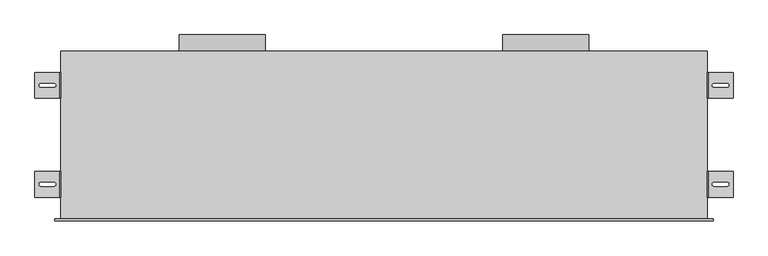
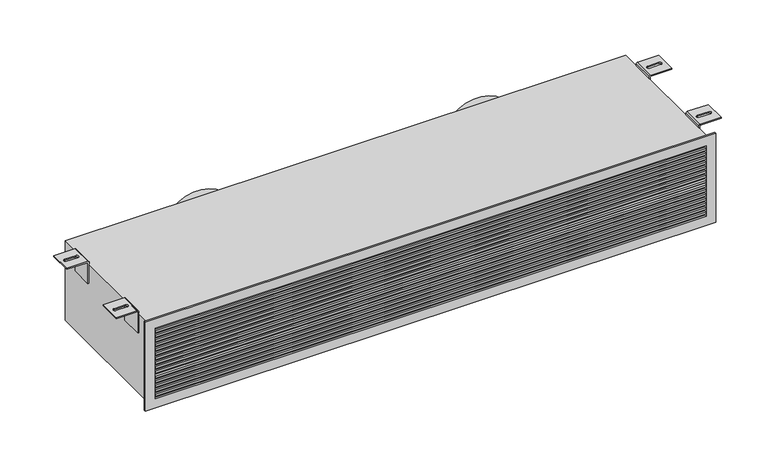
"""IFC4 building model written with IfcOpenShell, lengths in millimetres: air terminal geometry, EOL - Mural - 2 piquages : EOL-M2x200-1500x225-2."""

import ifcopenshell
import ifcopenshell.guid

model = None  # the IFC model being written
_history = None  # IfcOwnerHistory: only IFC2X3 demands one
_inside = {}  # id of a spatial element -> (the spatial element, [elements in it])
_under = {}  # id of a project, library or spatial element -> (it, [spatial elements below it])
_declared = {}  # id of a project -> (the project, [libraries it declares])
_typed = {}  # id of a type object -> (the type object, [elements of that type])
_made_of = {}  # id of a material, layer set ... -> (it, [elements and type objects made of it])


def new_model(schema):
    """Start an empty IFC model of exactly this schema.

    Asked for "IFC4X3", IfcOpenShell would pick the latest addendum, in which some entities
    have other attributes; the version numbers below select the first issue.
    IFC2X3 requires an IfcOwnerHistory on every rooted entity: one is made here for all.
    """
    global model, _history
    if schema == "IFC4X3":
        model = ifcopenshell.file(schema_version=(4, 3, 0, 0))
    else:
        model = ifcopenshell.file(schema=schema)
    _inside.clear()
    _under.clear()
    _declared.clear()
    _typed.clear()
    _made_of.clear()
    _history = None
    if model.schema == "IFC2X3":
        org = make("IfcOrganization", Name="unknown")
        user = make(
            "IfcPersonAndOrganization",
            ThePerson=make("IfcPerson", FamilyName="unknown"),
            TheOrganization=org,
        )
        app = make(
            "IfcApplication",
            ApplicationDeveloper=org,
            Version="unknown",
            ApplicationFullName="unknown",
            ApplicationIdentifier="unknown",
        )
        _history = make(
            "IfcOwnerHistory",
            OwningUser=user,
            OwningApplication=app,
            ChangeAction="ADDED",
            CreationDate=0,
        )
    return model


def make(cls, **values):
    """One entity of the class cls with the attributes given. An attribute that is None is left unset."""
    return model.create_entity(
        cls, **{name: value for name, value in values.items() if value is not None}
    )


def rooted(cls, **values):
    """An entity with a GlobalId (a new one), such as an element, a storey or a relation."""
    return make(cls, GlobalId=ifcopenshell.guid.new(), OwnerHistory=_history, **values)


def si_unit(unit_type, name, prefix=None):
    """IfcSIUnit, for example si_unit("LENGTHUNIT", "METRE", prefix="MILLI")."""
    return make("IfcSIUnit", UnitType=unit_type, Prefix=prefix, Name=name)


def assignment(units):
    """IfcUnitAssignment: the units of a project."""
    return None if units is None else make("IfcUnitAssignment", Units=units)


def point(xyz):
    """IfcCartesianPoint."""
    return None if xyz is None else make("IfcCartesianPoint", Coordinates=xyz)


def direction(xyz):
    """IfcDirection."""
    return None if xyz is None else make("IfcDirection", DirectionRatios=xyz)


def frame(location, z_axis=None, x_axis=None):
    """IfcAxis2Placement3D, a coordinate frame: its origin and axes. An axis left out is left unset."""
    return make(
        "IfcAxis2Placement3D",
        Location=point(location),
        Axis=direction(z_axis),
        RefDirection=direction(x_axis),
    )


def frame_2d(location, x_axis=None):
    """IfcAxis2Placement2D, a coordinate frame in the plane: its origin and x axis."""
    return make(
        "IfcAxis2Placement2D", Location=point(location), RefDirection=direction(x_axis)
    )


def origin():
    """The frame at (0, 0, 0) with its axes left unset."""
    return frame((0.0, 0.0, 0.0))


def place(relative_to, where):
    """IfcLocalPlacement: puts the frame where relative to a parent placement (None: the world)."""
    return make(
        "IfcLocalPlacement", PlacementRelTo=relative_to, RelativePlacement=where
    )


def context(
    kind, dimensions, precision=None, world=None, true_north=None, identifier=None
):
    """IfcGeometricRepresentationContext, for example the 3D "Model" context."""
    return make(
        "IfcGeometricRepresentationContext",
        ContextIdentifier=identifier,
        ContextType=kind,
        CoordinateSpaceDimension=dimensions,
        Precision=precision,
        WorldCoordinateSystem=world,
        TrueNorth=true_north,
    )


def project(units=None, contexts=None):
    """IfcProject with its units and contexts."""
    return rooted(
        "IfcProject",
        Name="project",
        RepresentationContexts=contexts,
        UnitsInContext=assignment(units),
    )


def spatial(cls, under=None, at=None, **own):
    """A site, building, storey or space (cls), placed at a placement, below another one or the project."""
    s = rooted(cls, ObjectPlacement=at, **own)
    if under is not None:
        _under.setdefault(under.id(), (under, []))[1].append(s)
    return s


def polyline(points):
    """IfcPolyline through the points."""
    return make("IfcPolyline", Points=[point(p) for p in points])


def circle_curve(where, radius):
    """IfcCircle in the frame where."""
    return make("IfcCircle", Position=where, Radius=radius)


def ellipse_curve(where, semi_axis1, semi_axis2):
    """IfcEllipse in the frame where."""
    return make(
        "IfcEllipse", Position=where, SemiAxis1=semi_axis1, SemiAxis2=semi_axis2
    )


def trimmed(basis, trim1, trim2, sense, master):
    """IfcTrimmedCurve: the piece of a basis curve between two trims."""
    return make(
        "IfcTrimmedCurve",
        BasisCurve=basis,
        Trim1=trim1,
        Trim2=trim2,
        SenseAgreement=sense,
        MasterRepresentation=master,
    )


def segment(curve, same_sense, transition):
    """IfcCompositeCurveSegment."""
    return make(
        "IfcCompositeCurveSegment",
        Transition=transition,
        SameSense=same_sense,
        ParentCurve=curve,
    )


def composite_curve(segments, self_intersect=None):
    """IfcCompositeCurve: segments joined end to end."""
    return make("IfcCompositeCurve", Segments=segments, SelfIntersect=self_intersect)


def outline(outer, holes=None, kind="AREA"):
    """IfcArbitraryClosedProfileDef: a profile drawn as a closed curve; with holes, ...WithVoids."""
    if holes is None:
        return make("IfcArbitraryClosedProfileDef", ProfileType=kind, OuterCurve=outer)
    return make(
        "IfcArbitraryProfileDefWithVoids",
        ProfileType=kind,
        OuterCurve=outer,
        InnerCurves=holes,
    )


def extrude(swept, where, along, depth):
    """IfcExtrudedAreaSolid: the profile swept, set in the frame where, extruded along a direction by depth."""
    return make(
        "IfcExtrudedAreaSolid",
        SweptArea=swept,
        Position=where,
        ExtrudedDirection=direction(along),
        Depth=depth,
    )


def shape(context_of_items, identifier, shape_type, items):
    """IfcShapeRepresentation: the items that make up one representation, for example the "Body"."""
    return make(
        "IfcShapeRepresentation",
        ContextOfItems=context_of_items,
        RepresentationIdentifier=identifier,
        RepresentationType=shape_type,
        Items=items,
    )


def source(mapping_origin, context_of_items, identifier, shape_type, items):
    """IfcRepresentationMap: a shape defined once, which mapped items show again and again."""
    return make(
        "IfcRepresentationMap",
        MappingOrigin=mapping_origin,
        MappedRepresentation=shape(context_of_items, identifier, shape_type, items),
    )


def transform(
    local_origin,
    x_axis=None,
    y_axis=None,
    z_axis=None,
    scale=None,
    scale2=None,
    scale3=None,
    uniform=True,
):
    """IfcCartesianTransformationOperator3D, or its non-uniform kind. x_axis, y_axis, z_axis: its Axis1, 2, 3."""
    if uniform:
        return make(
            "IfcCartesianTransformationOperator3D",
            Axis1=direction(x_axis),
            Axis2=direction(y_axis),
            LocalOrigin=point(local_origin),
            Scale=scale,
            Axis3=direction(z_axis),
        )
    return make(
        "IfcCartesianTransformationOperator3DnonUniform",
        Axis1=direction(x_axis),
        Axis2=direction(y_axis),
        LocalOrigin=point(local_origin),
        Scale=scale,
        Axis3=direction(z_axis),
        Scale2=scale2,
        Scale3=scale3,
    )


def mapped(mapping_source, mapping_target):
    """IfcMappedItem: shows the shape of a source again, moved by a transform."""
    return make(
        "IfcMappedItem", MappingSource=mapping_source, MappingTarget=mapping_target
    )


def made_of(thing, what):
    """Note that an element or type object is made of a material, layer set ...; save() writes the relation."""
    if what is not None:
        _made_of.setdefault(what.id(), (what, []))[1].append(thing)
    return thing


def element(
    cls,
    number,
    at=None,
    inside=None,
    cuts=None,
    type_object=None,
    material=None,
    context=None,
    identifier="Body",
    shape_type=None,
    held_by="IfcProductDefinitionShape",
    body=None,
    shapes=None,
    **own,
):
    """One element of the class cls, such as IfcWall. Its Tag is "e" and its number.

    at: its placement. inside: the storey or other place that contains it. cuts: it is an
    opening in that element (IfcRelVoidsElement). A single representation is given by context,
    identifier, shape_type and body (its items); several are given by shapes. held_by: the class
    of the entity that holds the representations. save() writes the other relations.
    """
    e = rooted(cls, Tag="e%d" % number, ObjectPlacement=at, **own)
    if body is not None:
        shapes = [shape(context, identifier, shape_type, body)]
    if shapes is not None:
        e.Representation = make(held_by, Representations=shapes)
    if inside is not None:
        _inside.setdefault(inside.id(), (inside, []))[1].append(e)
    if cuts is not None:
        rooted(
            "IfcRelVoidsElement", RelatingBuildingElement=cuts, RelatedOpeningElement=e
        )
    if type_object is not None:
        _typed.setdefault(type_object.id(), (type_object, []))[1].append(e)
    return made_of(e, material)


def aggregate(whole, parts):
    """IfcRelAggregates: a whole, such as a stair, and the parts it consists of."""
    return rooted("IfcRelAggregates", RelatingObject=whole, RelatedObjects=parts)


def save(model, path):
    """Write the relations noted so far, then the file.

    IfcRelAggregates (storeys below a building ...), IfcRelContainedInSpatialStructure (elements
    in a storey), IfcRelDefinesByType, IfcRelAssociatesMaterial and IfcRelDeclares: one each for
    every whole, place, type object, material and project.
    """
    for whole, parts in _under.values():
        aggregate(whole, parts)
    for where, things in _inside.values():
        rooted(
            "IfcRelContainedInSpatialStructure",
            RelatedElements=things,
            RelatingStructure=where,
        )
    for kind, things in _typed.values():
        rooted("IfcRelDefinesByType", RelatedObjects=things, RelatingType=kind)
    for what, things in _made_of.values():
        rooted("IfcRelAssociatesMaterial", RelatedObjects=things, RelatingMaterial=what)
    for by, libraries in _declared.values():
        rooted("IfcRelDeclares", RelatingContext=by, RelatedDefinitions=libraries)
    model.write(path)


def plane_surface(at):
    """IfcPlane: the flat surface through the origin of the frame at, square to its z axis."""
    return make("IfcPlane", Position=at)


def cylinder_surface(at, radius):
    """IfcCylindricalSurface: all points at the distance radius from the z axis of the frame at."""
    return make("IfcCylindricalSurface", Position=at, Radius=radius)


def revolved_surface(curve, axis_point, axis_direction):
    """IfcSurfaceOfRevolution: the curve turned about the line through axis_point along axis_direction."""
    return make(
        "IfcSurfaceOfRevolution",
        SweptCurve=make("IfcArbitraryOpenProfileDef", ProfileType="CURVE", Curve=curve),
        AxisPosition=make("IfcAxis1Placement", Location=point(axis_point), Axis=direction(axis_direction)),
    )


def extruded_surface(curve, direction_of_extrusion, depth):
    """IfcSurfaceOfLinearExtrusion: the curve pushed along a direction by depth."""
    return make(
        "IfcSurfaceOfLinearExtrusion",
        SweptCurve=make("IfcArbitraryOpenProfileDef", ProfileType="CURVE", Curve=curve),
        ExtrudedDirection=direction(direction_of_extrusion),
        Depth=depth,
    )


def advanced_brep(points, edges, surfaces, faces):
    """IfcAdvancedBrep: a solid bounded by faces that lie on surfaces and meet in shared edges.

    An edge is (start, end): straight between two places in points (the first is 0);
    or (start, end, curve); or (start, end, curve, False) where it runs against its curve.
    A face is (place in surfaces, loops), or (place, loops, False) where it looks against
    its surface's normal. A loop lists edges by number (the first is 1), with a minus sign
    where the edge is run from its end to its start. The first loop is the outer one.
    """
    corners = [point(p) for p in points]
    vertices = [make("IfcVertexPoint", VertexGeometry=c) for c in corners]
    made = []
    for start, end, *more in edges:
        made.append(
            make(
                "IfcEdgeCurve",
                EdgeStart=vertices[start],
                EdgeEnd=vertices[end],
                EdgeGeometry=more[0] if more else make("IfcPolyline", Points=[corners[start], corners[end]]),
                SameSense=more[1] if len(more) > 1 else True,
            )
        )
    hull = []
    for where, loops, *sense in faces:
        bounds = []
        for j, loop in enumerate(loops):
            ring = [make("IfcOrientedEdge", EdgeElement=made[abs(k) - 1], Orientation=k > 0) for k in loop]
            bounds.append(
                make(
                    "IfcFaceOuterBound" if j == 0 else "IfcFaceBound",
                    Bound=make("IfcEdgeLoop", EdgeList=ring),
                    Orientation=True,
                )
            )
        hull.append(make("IfcAdvancedFace", Bounds=bounds, FaceSurface=surfaces[where], SameSense=sense[0] if sense else True))
    return make("IfcAdvancedBrep", Outer=make("IfcClosedShell", CfsFaces=hull))


def air_terminal_fb6a926f(model_context):
    return source(origin(), model_context, "Body", "SolidModel", [
        advanced_brep(
        [(754.0013366, 110.0, 121.5), (810.0, 110.0, 121.5), (810.0, 110.0, 118.5), (754.0, 110.0, 118.5), (753.0, 110.0, 117.5), (753.0, 110.0, 58.5), (750.0, 110.0, 58.5), (750.0, 110.0, 117.4986634), (754.0013366, 50.0, 121.5), (750.0, 50.0, 117.4986634), (750.0, 50.0, 58.5), (753.0, 50.0, 58.5), (753.0, 50.0, 117.5), (754.0, 50.0, 118.5), (810.0, 50.0, 118.5), (810.0, 50.0, 121.5), (796.0287952, 75.4804328, 121.5), (766.0287952, 75.4804328, 121.5), (766.0287952, 84.4804328, 121.5), (796.0287952, 84.4804328, 121.5), (766.0287952, 75.4804328, 118.5), (796.0287952, 75.4804328, 118.5), (796.0287952, 84.4804328, 118.5), (766.0287952, 84.4804328, 118.5)],
        [
            (0, 1),
            (1, 2),
            (2, 3),
            (3, 4, circle_curve(frame((754.0, 110.0, 117.5), z_axis=(0.0, -1.0, 0.0), x_axis=(-1.0000000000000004, 0.0, 0.0)), 1.0)),
            (4, 5),
            (5, 6),
            (6, 7),
            (7, 0, circle_curve(frame((754.0013366, 110.0, 117.4986634), z_axis=(0.0, 1.0, 0.0), x_axis=(-1.0000000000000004, 0.0, 0.0)), 4.0013366)),
            (8, 9, circle_curve(frame((754.0013366, 50.0, 117.4986634), z_axis=(0.0, -1.0, 0.0), x_axis=(-1.0000000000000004, 0.0, 0.0)), 4.0013366)),
            (9, 10),
            (10, 11),
            (11, 12),
            (12, 13, circle_curve(frame((754.0, 50.0, 117.5), z_axis=(0.0, 1.0, 0.0), x_axis=(-1.0000000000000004, 0.0, 0.0)), 1.0)),
            (13, 14),
            (14, 15),
            (15, 8),
            (0, 8),
            (15, 1),
            (16, 17),
            (17, 18, circle_curve(frame((766.0287952, 79.9804328, 121.5), z_axis=(0.0, 0.0, -1.0), x_axis=(0.0, -1.0, 0.0)), 4.5)),
            (18, 19),
            (19, 16, circle_curve(frame((796.0287952, 79.9804328, 121.5), z_axis=(0.0, 0.0, -1.0), x_axis=(0.0, -1.0, 0.0)), 4.5)),
            (14, 2),
            (13, 3),
            (20, 21),
            (21, 22, ellipse_curve(frame((796.0287952, 79.9804328, 118.5), z_axis=(0.0, 0.0, 1.0), x_axis=(0.0, -1.0, 0.0)), 4.5, 4.5)),
            (22, 23),
            (23, 20, ellipse_curve(frame((766.0287952, 79.9804328, 118.5), z_axis=(0.0, 0.0, 1.0), x_axis=(0.0, -1.0, 0.0)), 4.5, 4.5)),
            (12, 4),
            (11, 5),
            (10, 6),
            (9, 7),
            (16, 21),
            (20, 17),
            (19, 22),
            (18, 23),
        ],
        [
            plane_surface(frame((810.0, 110.0, 121.5), z_axis=(0.0, 1.0, 0.0), x_axis=(1.0, 0.0, 0.0))),
            plane_surface(frame((810.0, 50.0, 121.5), z_axis=(0.0, -1.0, 0.0), x_axis=(-1.0, 0.0, 0.0))),
            plane_surface(frame((754.0013366, 110.0, 121.5), z_axis=(0.0, 0.0, 1.0), x_axis=(0.0, -1.0, 0.0))),
            plane_surface(frame((810.0, 110.0, 121.5), z_axis=(1.0, 0.0, 0.0), x_axis=(0.0, -1.0, 0.0))),
            plane_surface(frame((810.0, 110.0, 118.5), z_axis=(0.0, 0.0, -1.0), x_axis=(0.0, -1.0, 0.0))),
            revolved_surface(polyline([(753.0, 50.0, 117.5), (753.0, 110.00000000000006, 117.5)]), (754.0, 50.0, 117.5), (0.0, -1.0000000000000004, 0.0)),
            plane_surface(frame((753.0, 110.0, 117.5), z_axis=(1.0, 0.0, 0.0), x_axis=(0.0, -1.0, 0.0))),
            plane_surface(frame((753.0, 110.0, 58.5), z_axis=(0.0, 0.0, -1.0), x_axis=(0.0, -1.0, 0.0))),
            plane_surface(frame((750.0, 110.0, 58.5), z_axis=(-1.0, 0.0, 0.0), x_axis=(0.0, -1.0, 0.0))),
            cylinder_surface(frame((754.0013366, 50.0, 117.4986634), z_axis=(0.0, 1.0000000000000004, 0.0), x_axis=(-1.0000000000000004, 0.0, 0.0)), 4.0013366),
            plane_surface(frame((766.0287952, 75.4804328, 121.5), z_axis=(0.0, 1.0, 0.0), x_axis=(0.0, 0.0, -1.0))),
            extruded_surface(trimmed(ellipse_curve(frame((796.0287952, 79.9804328, 118.5), z_axis=(0.0, 0.0, 1.0), x_axis=(0.0, -1.0, 0.0)), 4.5, 4.5), [point((796.0287952, 75.4804328, 118.5))], [point((796.0287952, 84.4804328, 118.5))], True, "CARTESIAN"), (0.0, 0.0, -3.0), 3.0),
            plane_surface(frame((796.0287952, 84.4804328, 121.5), z_axis=(0.0, -1.0, 0.0), x_axis=(0.0, 0.0, -1.0))),
            extruded_surface(trimmed(ellipse_curve(frame((766.0287952, 79.9804328, 118.5), z_axis=(0.0, 0.0, 1.0), x_axis=(0.0, -1.0, 0.0)), 4.5, 4.5), [point((766.0287952, 84.4804328, 118.5))], [point((766.0287952, 75.4804328, 118.5))], True, "CARTESIAN"), (0.0, 0.0, -3.0), 3.0),
        ],
        [
            (0, [[1, 2, 3, 4, 5, 6, 7, 8]]),
            (1, [[9, 10, 11, 12, 13, 14, 15, 16]]),
            (2, [[-1, 17, -16, 18], [19, 20, 21, 22]]),
            (3, [[-2, -18, -15, 23]]),
            (4, [[-3, -23, -14, 24], [25, 26, 27, 28]]),
            (5, [[-4, -24, -13, 29]]),
            (6, [[-5, -29, -12, 30]]),
            (7, [[-6, -30, -11, 31]]),
            (8, [[-7, -31, -10, 32]]),
            (9, [[-8, -32, -9, -17]]),
            (10, [[33, -25, 34, -19]]),
            (11, [[-33, -22, 35, -26]]),
            (12, [[-35, -21, 36, -27]]),
            (13, [[-34, -28, -36, -20]]),
        ],
    ),
        advanced_brep(
        [(754.0013366, 340.0, 121.5), (810.0, 340.0, 121.5), (810.0, 340.0, 118.5), (754.0, 340.0, 118.5), (753.0, 340.0, 117.5), (753.0, 340.0, 58.5), (750.0, 340.0, 58.5), (750.0, 340.0, 117.4986634), (754.0013366, 280.0, 121.5), (750.0, 280.0, 117.4986634), (750.0, 280.0, 58.5), (753.0, 280.0, 58.5), (753.0, 280.0, 117.5), (754.0, 280.0, 118.5), (810.0, 280.0, 118.5), (810.0, 280.0, 121.5), (796.0287952, 305.4804328, 121.5), (766.0287952, 305.4804328, 121.5), (766.0287952, 314.4804328, 121.5), (796.0287952, 314.4804328, 121.5), (766.0287952, 305.4804328, 118.5), (796.0287952, 305.4804328, 118.5), (796.0287952, 314.4804328, 118.5), (766.0287952, 314.4804328, 118.5)],
        [
            (0, 1),
            (1, 2),
            (2, 3),
            (3, 4, circle_curve(frame((754.0, 340.0, 117.5), z_axis=(0.0, -1.0, 0.0), x_axis=(-1.0, 0.0, 0.0)), 1.0)),
            (4, 5),
            (5, 6),
            (6, 7),
            (7, 0, circle_curve(frame((754.0013366, 340.0, 117.4986634), z_axis=(0.0, 1.0, 0.0), x_axis=(-1.0, 0.0, 0.0)), 4.0013366)),
            (8, 9, circle_curve(frame((754.0013366, 280.0, 117.4986634), z_axis=(0.0, -1.0, 0.0), x_axis=(-1.0, 0.0, 0.0)), 4.0013366)),
            (9, 10),
            (10, 11),
            (11, 12),
            (12, 13, circle_curve(frame((754.0, 280.0, 117.5), z_axis=(0.0, 1.0, 0.0), x_axis=(-1.0, 0.0, 0.0)), 1.0)),
            (13, 14),
            (14, 15),
            (15, 8),
            (0, 8),
            (15, 1),
            (16, 17),
            (17, 18, circle_curve(frame((766.0287952, 309.9804328, 121.5), z_axis=(0.0, 0.0, -1.0), x_axis=(0.0, -1.0, 0.0)), 4.5)),
            (18, 19),
            (19, 16, circle_curve(frame((796.0287952, 309.9804328, 121.5), z_axis=(0.0, 0.0, -1.0), x_axis=(0.0, -1.0, 0.0)), 4.5)),
            (14, 2),
            (13, 3),
            (20, 21),
            (21, 22, ellipse_curve(frame((796.0287952, 309.9804328, 118.5), z_axis=(0.0, 0.0, 1.0), x_axis=(0.0, -1.0, 0.0)), 4.5, 4.5)),
            (22, 23),
            (23, 20, ellipse_curve(frame((766.0287952, 309.9804328, 118.5), z_axis=(0.0, 0.0, 1.0), x_axis=(0.0, -1.0, 0.0)), 4.5, 4.5)),
            (12, 4),
            (11, 5),
            (10, 6),
            (9, 7),
            (16, 21),
            (20, 17),
            (19, 22),
            (18, 23),
        ],
        [
            plane_surface(frame((810.0, 340.0, 121.5), z_axis=(0.0, 1.0, 0.0), x_axis=(1.0, 0.0, 0.0))),
            plane_surface(frame((810.0, 280.0, 121.5), z_axis=(0.0, -1.0, 0.0), x_axis=(-1.0, 0.0, 0.0))),
            plane_surface(frame((754.0013366, 340.0, 121.5), z_axis=(0.0, 0.0, 1.0), x_axis=(0.0, -1.0, 0.0))),
            plane_surface(frame((810.0, 340.0, 121.5), z_axis=(1.0, 0.0, 0.0), x_axis=(0.0, -1.0, 0.0))),
            plane_surface(frame((810.0, 340.0, 118.5), z_axis=(0.0, 0.0, -1.0), x_axis=(0.0, -1.0, 0.0))),
            revolved_surface(polyline([(753.0, 280.0, 117.5), (753.0, 340.0, 117.5)]), (754.0, 280.0, 117.5), (0.0, -1.0, 0.0)),
            plane_surface(frame((753.0, 340.0, 117.5), z_axis=(1.0, 0.0, 0.0), x_axis=(0.0, -1.0, 0.0))),
            plane_surface(frame((753.0, 340.0, 58.5), z_axis=(0.0, 0.0, -1.0), x_axis=(0.0, -1.0, 0.0))),
            plane_surface(frame((750.0, 340.0, 58.5), z_axis=(-1.0, 0.0, 0.0), x_axis=(0.0, -1.0, 0.0))),
            cylinder_surface(frame((754.0013366, 280.0, 117.4986634), z_axis=(0.0, 1.0, 0.0), x_axis=(-1.0, 0.0, 0.0)), 4.0013366),
            plane_surface(frame((766.0287952, 305.4804328, 121.5), z_axis=(0.0, 1.0, 0.0), x_axis=(0.0, 0.0, -1.0))),
            extruded_surface(trimmed(ellipse_curve(frame((796.0287952, 309.9804328, 118.5), z_axis=(0.0, 0.0, 1.0), x_axis=(0.0, -1.0, 0.0)), 4.5, 4.5), [point((796.0287952, 305.4804328, 118.5))], [point((796.0287952, 314.4804328, 118.5))], True, "CARTESIAN"), (0.0, 0.0, -3.0), 3.0),
            plane_surface(frame((796.0287952, 314.4804328, 121.5), z_axis=(0.0, -1.0, 0.0), x_axis=(0.0, 0.0, -1.0))),
            extruded_surface(trimmed(ellipse_curve(frame((766.0287952, 309.9804328, 118.5), z_axis=(0.0, 0.0, 1.0), x_axis=(0.0, -1.0, 0.0)), 4.5, 4.5), [point((766.0287952, 314.4804328, 118.5))], [point((766.0287952, 305.4804328, 118.5))], True, "CARTESIAN"), (0.0, 0.0, -3.0), 3.0),
        ],
        [
            (0, [[1, 2, 3, 4, 5, 6, 7, 8]]),
            (1, [[9, 10, 11, 12, 13, 14, 15, 16]]),
            (2, [[-1, 17, -16, 18], [19, 20, 21, 22]]),
            (3, [[-2, -18, -15, 23]]),
            (4, [[-3, -23, -14, 24], [25, 26, 27, 28]]),
            (5, [[-4, -24, -13, 29]]),
            (6, [[-5, -29, -12, 30]]),
            (7, [[-6, -30, -11, 31]]),
            (8, [[-7, -31, -10, 32]]),
            (9, [[-8, -32, -9, -17]]),
            (10, [[33, -25, 34, -19]]),
            (11, [[-33, -22, 35, -26]]),
            (12, [[-35, -21, 36, -27]]),
            (13, [[-34, -28, -36, -20]]),
        ],
    ),
        advanced_brep(
        [(-754.0013366, 50.0, 121.5), (-810.0, 50.0, 121.5), (-810.0, 50.0, 118.5), (-754.0, 50.0, 118.5), (-753.0, 50.0, 117.5), (-753.0, 50.0, 58.5), (-750.0, 50.0, 58.5), (-750.0, 50.0, 117.4986634), (-754.0013366, 110.0, 121.5), (-750.0, 110.0, 117.4986634), (-750.0, 110.0, 58.5), (-753.0, 110.0, 58.5), (-753.0, 110.0, 117.5), (-754.0, 110.0, 118.5), (-810.0, 110.0, 118.5), (-810.0, 110.0, 121.5), (-796.0287952, 84.5195672, 121.5), (-766.0287952, 84.5195672, 121.5), (-766.0287952, 75.5195672, 121.5), (-796.0287952, 75.5195672, 121.5), (-766.0287952, 84.5195672, 118.5), (-796.0287952, 84.5195672, 118.5), (-796.0287952, 75.5195672, 118.5), (-766.0287952, 75.5195672, 118.5)],
        [
            (0, 1),
            (1, 2),
            (2, 3),
            (3, 4, circle_curve(frame((-754.0, 50.0, 117.5), z_axis=(0.0, 1.0, 0.0), x_axis=(1.0, 0.0, 0.0)), 1.0)),
            (4, 5),
            (5, 6),
            (6, 7),
            (7, 0, circle_curve(frame((-754.0013366, 50.0, 117.4986634), z_axis=(0.0, -1.0, 0.0), x_axis=(1.0, 0.0, 0.0)), 4.0013366)),
            (8, 9, circle_curve(frame((-754.0013366, 110.0, 117.4986634), z_axis=(0.0, 1.0, 0.0), x_axis=(1.0, 0.0, 0.0)), 4.0013366)),
            (9, 10),
            (10, 11),
            (11, 12),
            (12, 13, circle_curve(frame((-754.0, 110.0, 117.5), z_axis=(0.0, -1.0, 0.0), x_axis=(1.0, 0.0, 0.0)), 1.0)),
            (13, 14),
            (14, 15),
            (15, 8),
            (0, 8),
            (15, 1),
            (16, 17),
            (17, 18, circle_curve(frame((-766.0287952, 80.0195672, 121.5), z_axis=(0.0, 0.0, -1.0), x_axis=(0.0, 1.0, 0.0)), 4.5)),
            (18, 19),
            (19, 16, circle_curve(frame((-796.0287952, 80.0195672, 121.5), z_axis=(0.0, 0.0, -1.0), x_axis=(0.0, 1.0, 0.0)), 4.5)),
            (14, 2),
            (13, 3),
            (20, 21),
            (21, 22, ellipse_curve(frame((-796.0287952, 80.0195672, 118.5), z_axis=(0.0, 0.0, 1.0), x_axis=(0.0, 1.0, 0.0)), 4.5, 4.5)),
            (22, 23),
            (23, 20, ellipse_curve(frame((-766.0287952, 80.0195672, 118.5), z_axis=(0.0, 0.0, 1.0), x_axis=(0.0, 1.0, 0.0)), 4.5, 4.5)),
            (12, 4),
            (11, 5),
            (10, 6),
            (9, 7),
            (16, 21),
            (20, 17),
            (19, 22),
            (18, 23),
        ],
        [
            plane_surface(frame((-810.0, 50.0, 121.5), z_axis=(0.0, -1.0, 0.0), x_axis=(-1.0, 0.0, 0.0))),
            plane_surface(frame((-810.0, 110.0, 121.5), z_axis=(0.0, 1.0, 0.0), x_axis=(1.0, 0.0, 0.0))),
            plane_surface(frame((-754.0013366, 50.0, 121.5), z_axis=(0.0, 0.0, 1.0), x_axis=(0.0, 1.0, 0.0))),
            plane_surface(frame((-810.0, 50.0, 121.5), z_axis=(-1.0, 0.0, 0.0), x_axis=(0.0, 1.0, 0.0))),
            plane_surface(frame((-810.0, 50.0, 118.5), z_axis=(0.0, 0.0, -1.0), x_axis=(0.0, 1.0, 0.0))),
            revolved_surface(polyline([(-753.0, 110.0, 117.5), (-753.0, 50.0, 117.5)]), (-754.0, 110.0, 117.5), (0.0, 1.0, 0.0)),
            plane_surface(frame((-753.0, 50.0, 117.5), z_axis=(-1.0, 0.0, 0.0), x_axis=(0.0, 1.0, 0.0))),
            plane_surface(frame((-753.0, 50.0, 58.5), z_axis=(0.0, 0.0, -1.0), x_axis=(0.0, 1.0, 0.0))),
            plane_surface(frame((-750.0, 50.0, 58.5), z_axis=(1.0, 0.0, 0.0), x_axis=(0.0, 1.0, 0.0))),
            cylinder_surface(frame((-754.0013366, 110.0, 117.4986634), z_axis=(0.0, -1.0, 0.0), x_axis=(1.0, 0.0, 0.0)), 4.0013366),
            plane_surface(frame((-766.0287952, 84.5195672, 121.5), z_axis=(0.0, -1.0, 0.0), x_axis=(0.0, 0.0, -1.0))),
            extruded_surface(trimmed(ellipse_curve(frame((-796.0287952, 80.0195672, 118.5), z_axis=(0.0, 0.0, 1.0), x_axis=(0.0, 1.0, 0.0)), 4.5, 4.5), [point((-796.0287952, 84.5195672, 118.5))], [point((-796.0287952, 75.5195672, 118.5))], True, "CARTESIAN"), (0.0, 0.0, -3.0), 3.0),
            plane_surface(frame((-796.0287952, 75.5195672, 121.5), z_axis=(0.0, 1.0, 0.0), x_axis=(0.0, 0.0, -1.0))),
            extruded_surface(trimmed(ellipse_curve(frame((-766.0287952, 80.0195672, 118.5), z_axis=(0.0, 0.0, 1.0), x_axis=(0.0, 1.0, 0.0)), 4.5, 4.5), [point((-766.0287952, 75.5195672, 118.5))], [point((-766.0287952, 84.5195672, 118.5))], True, "CARTESIAN"), (0.0, 0.0, -3.0), 3.0),
        ],
        [
            (0, [[1, 2, 3, 4, 5, 6, 7, 8]]),
            (1, [[9, 10, 11, 12, 13, 14, 15, 16]]),
            (2, [[-1, 17, -16, 18], [19, 20, 21, 22]]),
            (3, [[-2, -18, -15, 23]]),
            (4, [[-3, -23, -14, 24], [25, 26, 27, 28]]),
            (5, [[-4, -24, -13, 29]]),
            (6, [[-5, -29, -12, 30]]),
            (7, [[-6, -30, -11, 31]]),
            (8, [[-7, -31, -10, 32]]),
            (9, [[-8, -32, -9, -17]]),
            (10, [[33, -25, 34, -19]]),
            (11, [[-33, -22, 35, -26]]),
            (12, [[-35, -21, 36, -27]]),
            (13, [[-34, -28, -36, -20]]),
        ],
    ),
        advanced_brep(
        [(-754.0013366, 280.0, 121.5), (-810.0, 280.0, 121.5), (-810.0, 280.0, 118.5), (-754.0, 280.0, 118.5), (-753.0, 280.0, 117.5), (-753.0, 280.0, 58.5), (-750.0, 280.0, 58.5), (-750.0, 280.0, 117.4986634), (-754.0013366, 340.0, 121.5), (-750.0, 340.0, 117.4986634), (-750.0, 340.0, 58.5), (-753.0, 340.0, 58.5), (-753.0, 340.0, 117.5), (-754.0, 340.0, 118.5), (-810.0, 340.0, 118.5), (-810.0, 340.0, 121.5), (-796.0287952, 314.5195672, 121.5), (-766.0287952, 314.5195672, 121.5), (-766.0287952, 305.5195672, 121.5), (-796.0287952, 305.5195672, 121.5), (-766.0287952, 314.5195672, 118.5), (-796.0287952, 314.5195672, 118.5), (-796.0287952, 305.5195672, 118.5), (-766.0287952, 305.5195672, 118.5)],
        [
            (0, 1),
            (1, 2),
            (2, 3),
            (3, 4, circle_curve(frame((-754.0, 280.0, 117.5), z_axis=(0.0, 1.0, 0.0), x_axis=(1.0, 0.0, 0.0)), 1.0)),
            (4, 5),
            (5, 6),
            (6, 7),
            (7, 0, circle_curve(frame((-754.0013366, 280.0, 117.4986634), z_axis=(0.0, -1.0, 0.0), x_axis=(1.0, 0.0, 0.0)), 4.0013366)),
            (8, 9, circle_curve(frame((-754.0013366, 340.0, 117.4986634), z_axis=(0.0, 1.0, 0.0), x_axis=(1.0, 0.0, 0.0)), 4.0013366)),
            (9, 10),
            (10, 11),
            (11, 12),
            (12, 13, circle_curve(frame((-754.0, 340.0, 117.5), z_axis=(0.0, -1.0, 0.0), x_axis=(1.0, 0.0, 0.0)), 1.0)),
            (13, 14),
            (14, 15),
            (15, 8),
            (0, 8),
            (15, 1),
            (16, 17),
            (17, 18, circle_curve(frame((-766.0287952, 310.0195672, 121.5), z_axis=(0.0, 0.0, -1.0), x_axis=(0.0, 1.0, 0.0)), 4.5)),
            (18, 19),
            (19, 16, circle_curve(frame((-796.0287952, 310.0195672, 121.5), z_axis=(0.0, 0.0, -1.0), x_axis=(0.0, 1.0, 0.0)), 4.5)),
            (14, 2),
            (13, 3),
            (20, 21),
            (21, 22, ellipse_curve(frame((-796.0287952, 310.0195672, 118.5), z_axis=(0.0, 0.0, 1.0), x_axis=(0.0, 1.0, 0.0)), 4.5, 4.5)),
            (22, 23),
            (23, 20, ellipse_curve(frame((-766.0287952, 310.0195672, 118.5), z_axis=(0.0, 0.0, 1.0), x_axis=(0.0, 1.0, 0.0)), 4.5, 4.5)),
            (12, 4),
            (11, 5),
            (10, 6),
            (9, 7),
            (16, 21),
            (20, 17),
            (19, 22),
            (18, 23),
        ],
        [
            plane_surface(frame((-810.0, 280.0, 121.5), z_axis=(0.0, -1.0, 0.0), x_axis=(-1.0, 0.0, 0.0))),
            plane_surface(frame((-810.0, 340.0, 121.5), z_axis=(0.0, 1.0, 0.0), x_axis=(1.0, 0.0, 0.0))),
            plane_surface(frame((-754.0013366, 280.0, 121.5), z_axis=(0.0, 0.0, 1.0), x_axis=(0.0, 1.0, 0.0))),
            plane_surface(frame((-810.0, 280.0, 121.5), z_axis=(-1.0, 0.0, 0.0), x_axis=(0.0, 1.0, 0.0))),
            plane_surface(frame((-810.0, 280.0, 118.5), z_axis=(0.0, 0.0, -1.0), x_axis=(0.0, 1.0, 0.0))),
            revolved_surface(polyline([(-753.0, 340.0, 117.5), (-753.0, 280.0, 117.5)]), (-754.0, 340.0, 117.5), (0.0, 1.0, 0.0)),
            plane_surface(frame((-753.0, 280.0, 117.5), z_axis=(-1.0, 0.0, 0.0), x_axis=(0.0, 1.0, 0.0))),
            plane_surface(frame((-753.0, 280.0, 58.5), z_axis=(0.0, 0.0, -1.0), x_axis=(0.0, 1.0, 0.0))),
            plane_surface(frame((-750.0, 280.0, 58.5), z_axis=(1.0, 0.0, 0.0), x_axis=(0.0, 1.0, 0.0))),
            cylinder_surface(frame((-754.0013366, 340.0, 117.4986634), z_axis=(0.0, -1.0, 0.0), x_axis=(1.0, 0.0, 0.0)), 4.0013366),
            plane_surface(frame((-766.0287952, 314.5195672, 121.5), z_axis=(0.0, -1.0, 0.0), x_axis=(0.0, 0.0, -1.0))),
            extruded_surface(trimmed(ellipse_curve(frame((-796.0287952, 310.0195672, 118.5), z_axis=(0.0, 0.0, 1.0), x_axis=(0.0, 1.0, 0.0)), 4.5, 4.5), [point((-796.0287952, 314.5195672, 118.5))], [point((-796.0287952, 305.5195672, 118.5))], True, "CARTESIAN"), (0.0, 0.0, -3.0), 3.0),
            plane_surface(frame((-796.0287952, 305.5195672, 121.5), z_axis=(0.0, 1.0, 0.0), x_axis=(0.0, 0.0, -1.0))),
            extruded_surface(trimmed(ellipse_curve(frame((-766.0287952, 310.0195672, 118.5), z_axis=(0.0, 0.0, 1.0), x_axis=(0.0, 1.0, 0.0)), 4.5, 4.5), [point((-766.0287952, 305.5195672, 118.5))], [point((-766.0287952, 314.5195672, 118.5))], True, "CARTESIAN"), (0.0, 0.0, -3.0), 3.0),
        ],
        [
            (0, [[1, 2, 3, 4, 5, 6, 7, 8]]),
            (1, [[9, 10, 11, 12, 13, 14, 15, 16]]),
            (2, [[-1, 17, -16, 18], [19, 20, 21, 22]]),
            (3, [[-2, -18, -15, 23]]),
            (4, [[-3, -23, -14, 24], [25, 26, 27, 28]]),
            (5, [[-4, -24, -13, 29]]),
            (6, [[-5, -29, -12, 30]]),
            (7, [[-6, -30, -11, 31]]),
            (8, [[-7, -31, -10, 32]]),
            (9, [[-8, -32, -9, -17]]),
            (10, [[33, -25, 34, -19]]),
            (11, [[-33, -22, 35, -26]]),
            (12, [[-35, -21, 36, -27]]),
            (13, [[-34, -28, -36, -20]]),
        ],
    ),
        extrude(outline(composite_curve([segment(trimmed(circle_curve(frame_2d((0.0, 375.0)), 100.0), [point((0.0, 275.0))], [point((0.0, 475.0))], False, "CARTESIAN"), True, "CONTINUOUS"), segment(trimmed(circle_curve(frame_2d((0.0, 375.0)), 100.0), [point((0.0, 475.0))], [point((0.0, 275.0))], False, "CARTESIAN"), True, "CONTINUOUS")], self_intersect=False), holes=[composite_curve([segment(trimmed(circle_curve(frame_2d((0.0, 375.0)), 99.0), [point((0.0, 474.0))], [point((0.0, 276.0))], True, "CARTESIAN"), True, "CONTINUOUS"), segment(trimmed(circle_curve(frame_2d((0.0, 375.0)), 99.0), [point((0.0, 276.0))], [point((0.0, 474.0))], True, "CARTESIAN"), True, "CONTINUOUS")], self_intersect=False)]), frame((0.0, 390.0, 0.0), z_axis=(0.0, 1.0, 0.0), x_axis=(0.0, 0.0, 1.0)), (0.0, 0.0, 1.0), 37.5),
        extrude(outline(composite_curve([segment(trimmed(circle_curve(frame_2d((0.0, -375.0)), 100.0), [point((0.0, -475.0))], [point((0.0, -275.0))], False, "CARTESIAN"), True, "CONTINUOUS"), segment(trimmed(circle_curve(frame_2d((0.0, -375.0)), 100.0), [point((0.0, -275.0))], [point((0.0, -475.0))], False, "CARTESIAN"), True, "CONTINUOUS")], self_intersect=False), holes=[composite_curve([segment(trimmed(circle_curve(frame_2d((0.0, -375.0)), 99.0), [point((0.0, -276.0))], [point((0.0, -474.0))], True, "CARTESIAN"), True, "CONTINUOUS"), segment(trimmed(circle_curve(frame_2d((0.0, -375.0)), 99.0), [point((0.0, -474.0))], [point((0.0, -276.0))], True, "CARTESIAN"), True, "CONTINUOUS")], self_intersect=False)]), frame((0.0, 390.0, 0.0), z_axis=(0.0, 1.0, 0.0), x_axis=(0.0, 0.0, 1.0)), (0.0, 0.0, 1.0), 37.5),
        extrude(outline(polyline([(737.5, 0.0), (737.5, -5.0), (-737.5, -5.0), (-737.5, 0.0), (737.5, 0.0)])), frame((0.0, 0.0, 87.15), z_axis=(0.0, 0.0, 1.0), x_axis=(1.0, 0.0, 0.0)), (0.0, 0.0, 1.0), 5.6),
        extrude(outline(polyline([(737.5, 0.0), (737.5, -5.0), (-737.5, -5.0), (-737.5, 0.0), (737.5, 0.0)])), frame((0.0, 0.0, 74.3), z_axis=(0.0, 0.0, 1.0), x_axis=(1.0, 0.0, 0.0)), (0.0, 0.0, 1.0), 5.6),
        extrude(outline(polyline([(737.5, 0.0), (737.5, -5.0), (-737.5, -5.0), (-737.5, 0.0), (737.5, 0.0)])), frame((0.0, 0.0, 61.45), z_axis=(0.0, 0.0, 1.0), x_axis=(1.0, 0.0, 0.0)), (0.0, 0.0, 1.0), 5.6),
        extrude(outline(polyline([(737.5, 0.0), (737.5, -5.0), (-737.5, -5.0), (-737.5, 0.0), (737.5, 0.0)])), frame((0.0, 0.0, 48.6), z_axis=(0.0, 0.0, 1.0), x_axis=(1.0, 0.0, 0.0)), (0.0, 0.0, 1.0), 5.6),
        extrude(outline(polyline([(737.5, 0.0), (737.5, -5.0), (-737.5, -5.0), (-737.5, 0.0), (737.5, 0.0)])), frame((0.0, 0.0, 35.75), z_axis=(0.0, 0.0, 1.0), x_axis=(1.0, 0.0, 0.0)), (0.0, 0.0, 1.0), 5.6),
        extrude(outline(polyline([(737.5, 0.0), (737.5, -5.0), (-737.5, -5.0), (-737.5, 0.0), (737.5, 0.0)])), frame((0.0, 0.0, 22.9), z_axis=(0.0, 0.0, 1.0), x_axis=(1.0, 0.0, 0.0)), (0.0, 0.0, 1.0), 5.6),
        extrude(outline(polyline([(737.5, 0.0), (737.5, -5.0), (-737.5, -5.0), (-737.5, 0.0), (737.5, 0.0)])), frame((0.0, 0.0, 10.05), z_axis=(0.0, 0.0, 1.0), x_axis=(1.0, 0.0, 0.0)), (0.0, 0.0, 1.0), 5.6),
        extrude(outline(polyline([(737.5, 0.0), (737.5, -5.0), (-737.5, -5.0), (-737.5, 0.0), (737.5, 0.0)])), frame((0.0, 0.0, -2.8), z_axis=(0.0, 0.0, 1.0), x_axis=(1.0, 0.0, 0.0)), (0.0, 0.0, 1.0), 5.6),
        extrude(outline(polyline([(737.5, 0.0), (737.5, -5.0), (-737.5, -5.0), (-737.5, 0.0), (737.5, 0.0)])), frame((0.0, 0.0, -15.65), z_axis=(0.0, 0.0, 1.0), x_axis=(1.0, 0.0, 0.0)), (0.0, 0.0, 1.0), 5.6),
        extrude(outline(polyline([(737.5, 0.0), (737.5, -5.0), (-737.5, -5.0), (-737.5, 0.0), (737.5, 0.0)])), frame((0.0, 0.0, -28.5), z_axis=(0.0, 0.0, 1.0), x_axis=(1.0, 0.0, 0.0)), (0.0, 0.0, 1.0), 5.6),
        extrude(outline(polyline([(737.5, 0.0), (737.5, -5.0), (-737.5, -5.0), (-737.5, 0.0), (737.5, 0.0)])), frame((0.0, 0.0, -41.35), z_axis=(0.0, 0.0, 1.0), x_axis=(1.0, 0.0, 0.0)), (0.0, 0.0, 1.0), 5.6),
        extrude(outline(polyline([(737.5, 0.0), (737.5, -5.0), (-737.5, -5.0), (-737.5, 0.0), (737.5, 0.0)])), frame((0.0, 0.0, -54.2), z_axis=(0.0, 0.0, 1.0), x_axis=(1.0, 0.0, 0.0)), (0.0, 0.0, 1.0), 5.6),
        extrude(outline(polyline([(737.5, 0.0), (737.5, -5.0), (-737.5, -5.0), (-737.5, 0.0), (737.5, 0.0)])), frame((0.0, 0.0, -67.05), z_axis=(0.0, 0.0, 1.0), x_axis=(1.0, 0.0, 0.0)), (0.0, 0.0, 1.0), 5.6),
        extrude(outline(polyline([(737.5, 0.0), (737.5, -5.0), (-737.5, -5.0), (-737.5, 0.0), (737.5, 0.0)])), frame((0.0, 0.0, -79.9), z_axis=(0.0, 0.0, 1.0), x_axis=(1.0, 0.0, 0.0)), (0.0, 0.0, 1.0), 5.6),
        extrude(outline(polyline([(737.5, 0.0), (737.5, -5.0), (-737.5, -5.0), (-737.5, 0.0), (737.5, 0.0)])), frame((0.0, 0.0, -92.75), z_axis=(0.0, 0.0, 1.0), x_axis=(1.0, 0.0, 0.0)), (0.0, 0.0, 1.0), 5.6),
        extrude(outline(polyline([(126.0, 764.0), (126.0, -764.0), (-126.0, -764.0), (-126.0, 764.0), (126.0, 764.0)]), holes=[polyline([(100.0, 737.5), (-100.0, 737.5), (-100.0, -737.5), (100.0, -737.5), (100.0, 737.5)])]), frame((0.0, -5.0, 0.0), z_axis=(0.0, 1.0, 0.0), x_axis=(0.0, 0.0, 1.0)), (0.0, 0.0, 1.0), 5.0),
        advanced_brep(
        [(750.0, 390.0, 112.5), (-750.0, 390.0, 112.5), (-750.0, 0.0, 112.5), (750.0, 0.0, 112.5), (750.0, 390.0, -112.5), (750.0, 0.0, -112.5), (-750.0, 0.0, -112.5), (-750.0, 390.0, -112.5), (276.0, 390.0, 0.0), (474.0, 390.0, 0.0), (-474.0, 390.0, 0.0), (-276.0, 390.0, 0.0), (-745.0, 0.0, 107.5), (745.0, 0.0, 107.5), (745.0, 0.0, -107.5), (-745.0, 0.0, -107.5), (745.0, 385.0, 107.5), (-745.0, 385.0, 107.5), (745.0, 385.0, -107.5), (-745.0, 385.0, -107.5), (474.0, 385.0, 0.0), (276.0, 385.0, 0.0), (-276.0, 385.0, 0.0), (-474.0, 385.0, 0.0)],
        [
            (0, 1),
            (1, 2),
            (2, 3),
            (3, 0),
            (4, 5),
            (5, 6),
            (6, 7),
            (7, 4),
            (0, 4),
            (7, 1),
            (8, 9, circle_curve(frame((375.0, 390.0, 0.0), z_axis=(0.0, -1.0, 0.0), x_axis=(1.0, 0.0, 0.0)), 99.0)),
            (9, 8, circle_curve(frame((375.0, 390.0, 0.0), z_axis=(0.0, -1.0, 0.0), x_axis=(1.0, 0.0, 0.0)), 99.0)),
            (10, 11, circle_curve(frame((-375.0, 390.0, 0.0), z_axis=(0.0, -1.0, 0.0), x_axis=(1.0, 0.0, 0.0)), 99.0)),
            (11, 10, circle_curve(frame((-375.0, 390.0, 0.0), z_axis=(0.0, -1.0, 0.0), x_axis=(1.0, 0.0, 0.0)), 99.0)),
            (6, 2),
            (5, 3),
            (12, 13),
            (13, 14),
            (14, 15),
            (15, 12),
            (16, 13),
            (12, 17),
            (17, 16),
            (18, 19),
            (19, 15),
            (14, 18),
            (17, 19),
            (18, 16),
            (20, 21, circle_curve(frame((375.0, 385.0, 0.0), z_axis=(0.0, 1.0, 0.0), x_axis=(1.0, 0.0, 0.0)), 99.0)),
            (21, 20, circle_curve(frame((375.0, 385.0, 0.0), z_axis=(0.0, 1.0, 0.0), x_axis=(1.0, 0.0, 0.0)), 99.0)),
            (22, 23, circle_curve(frame((-375.0, 385.0, 0.0), z_axis=(0.0, 1.0, 0.0), x_axis=(1.0, 0.0, 0.0)), 99.0)),
            (23, 22, circle_curve(frame((-375.0, 385.0, 0.0), z_axis=(0.0, 1.0, 0.0), x_axis=(1.0, 0.0, 0.0)), 99.0)),
            (8, 21),
            (20, 9),
            (10, 23),
            (22, 11),
        ],
        [
            plane_surface(frame((-750.0, 390.0, 112.5), z_axis=(0.0, 0.0, 1.0), x_axis=(-1.0, 0.0, 0.0))),
            plane_surface(frame((-750.0, 390.0, -112.5), z_axis=(0.0, 0.0, -1.0), x_axis=(1.0, 0.0, 0.0))),
            plane_surface(frame((750.0, 390.0, 112.5), z_axis=(0.0, 1.0, 0.0), x_axis=(0.0, 0.0, -1.0))),
            plane_surface(frame((-750.0, 390.0, 112.5), z_axis=(-1.0, 0.0, 0.0), x_axis=(0.0, 0.0, -1.0))),
            plane_surface(frame((-750.0, 0.0, 112.5), z_axis=(0.0, -1.0, 0.0), x_axis=(0.0, 0.0, -1.0))),
            plane_surface(frame((750.0, 0.0, 112.5), z_axis=(1.0, 0.0, 0.0), x_axis=(0.0, 0.0, -1.0))),
            plane_surface(frame((-745.0, 385.0, 107.5), z_axis=(0.0, 0.0, -1.0), x_axis=(-1.0, 0.0, 0.0))),
            plane_surface(frame((-745.0, 385.0, -107.5), z_axis=(0.0, 0.0, 1.0), x_axis=(1.0, 0.0, 0.0))),
            plane_surface(frame((745.0, 385.0, 107.5), z_axis=(0.0, -1.0, 0.0), x_axis=(0.0, 0.0, -1.0))),
            plane_surface(frame((-745.0, 385.0, 107.5), z_axis=(1.0, 0.0, 0.0), x_axis=(0.0, 0.0, -1.0))),
            plane_surface(frame((745.0, 0.0, 107.5), z_axis=(-1.0, 0.0, 0.0), x_axis=(0.0, 0.0, -1.0))),
            revolved_surface(polyline([(474.0, 385.0, 0.0), (474.0, 390.0, 0.0)]), (375.0, 427.5, 0.0), (0.0, -1.0, 0.0)),
            revolved_surface(polyline([(-276.0, 385.0, 0.0), (-276.0, 390.0, 0.0)]), (-375.0, 0.0, 0.0), (0.0, -1.0, 0.0)),
        ],
        [
            (0, [[1, 2, 3, 4]]),
            (1, [[5, 6, 7, 8]]),
            (2, [[-1, 9, -8, 10], [11, 12], [13, 14]]),
            (3, [[-2, -10, -7, 15]]),
            (4, [[-3, -15, -6, 16], [17, 18, 19, 20]]),
            (5, [[-4, -16, -5, -9]]),
            (6, [[21, -17, 22, 23]]),
            (7, [[24, 25, -19, 26]]),
            (8, [[-23, 27, -24, 28], [29, 30], [31, 32]]),
            (9, [[-22, -20, -25, -27]]),
            (10, [[-21, -28, -26, -18]]),
            (11, [[33, -29, 34, -11]]),
            (11, [[-33, -12, -34, -30]]),
            (12, [[35, -31, 36, -13]]),
            (12, [[-35, -14, -36, -32]]),
        ],
    ),
    ])


if __name__ == "__main__":
    model = new_model("IFC4")
    model_context = context("Model", 3, world=origin())
    ifc_project = project(units=[si_unit("LENGTHUNIT", "METRE", prefix="MILLI")], contexts=[model_context])
    site = spatial("IfcSite", under=ifc_project)
    building = spatial("IfcBuilding", under=site)
    placement = place(None, origin())
    air_terminal_shape = air_terminal_fb6a926f(model_context)
    element("IfcAirTerminal", 1, ObjectType="EOL - Mural - 2 piquages : EOL-M2x200-1500x225-2", at=placement, inside=building, context=model_context, shape_type="MappedRepresentation", body=[
        mapped(air_terminal_shape, transform((0.0, 0.0, 0.0), x_axis=(1.0, 0.0, 0.0), y_axis=(0.0, 1.0, 0.0), z_axis=(0.0, 0.0, 1.0))),
    ])
    save(model, "model.ifc")
